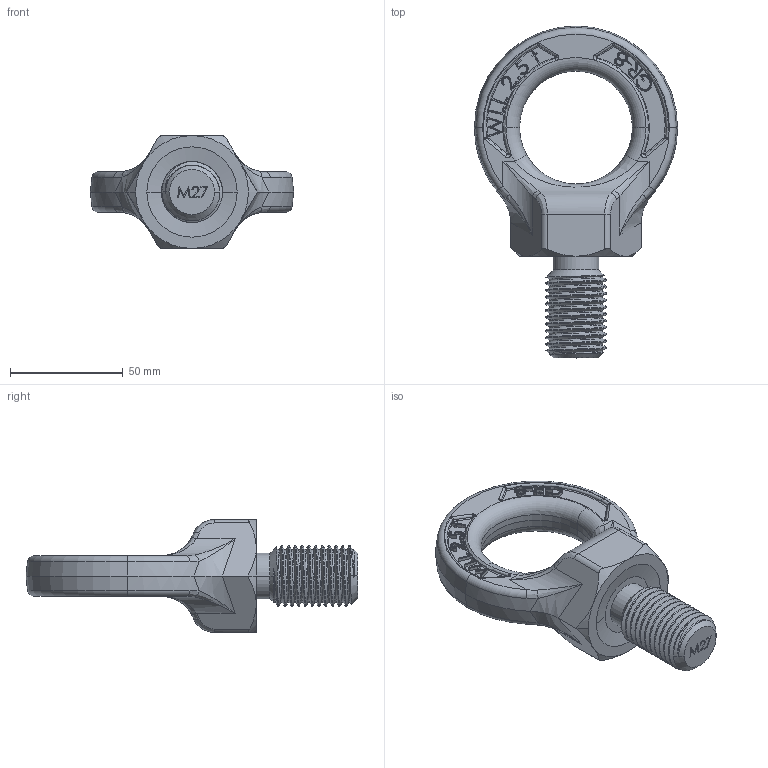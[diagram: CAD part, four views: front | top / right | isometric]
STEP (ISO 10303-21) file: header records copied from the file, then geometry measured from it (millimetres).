
FILE_DESCRIPTION (( 'STEP AP214' ), '1' );
FILE_NAME ('HTEB27.STEP', '2014-10-07T04:48:07', ( '' ), ( '' ), 'SwSTEP 2.0', 'SolidWorks 2012', '' );
FILE_SCHEMA (( 'AUTOMOTIVE_DESIGN' ));
Length unit declared in the file: millimetre
Products named in the file (1): HTEB27
Bounding box: 90 x 147 x 50 mm (x, y, z)
Volume: 142772.5 mm3; surface area: 26906.1 mm2
Topology: 1 solids, 1 shells, 814 faces, 1968 edges, 1178 vertices
Faces by surface type: plane 274, cylinder 239, bspline 203, torus 55, cone 23, sphere 20
Entity records: 39679 total; most frequent: CARTESIAN_POINT 22244, ORIENTED_EDGE 3888, DIRECTION 2745, EDGE_CURVE 1944, VERTEX_POINT 1170, VECTOR 1017, LINE 1017, AXIS2_PLACEMENT_3D 864
